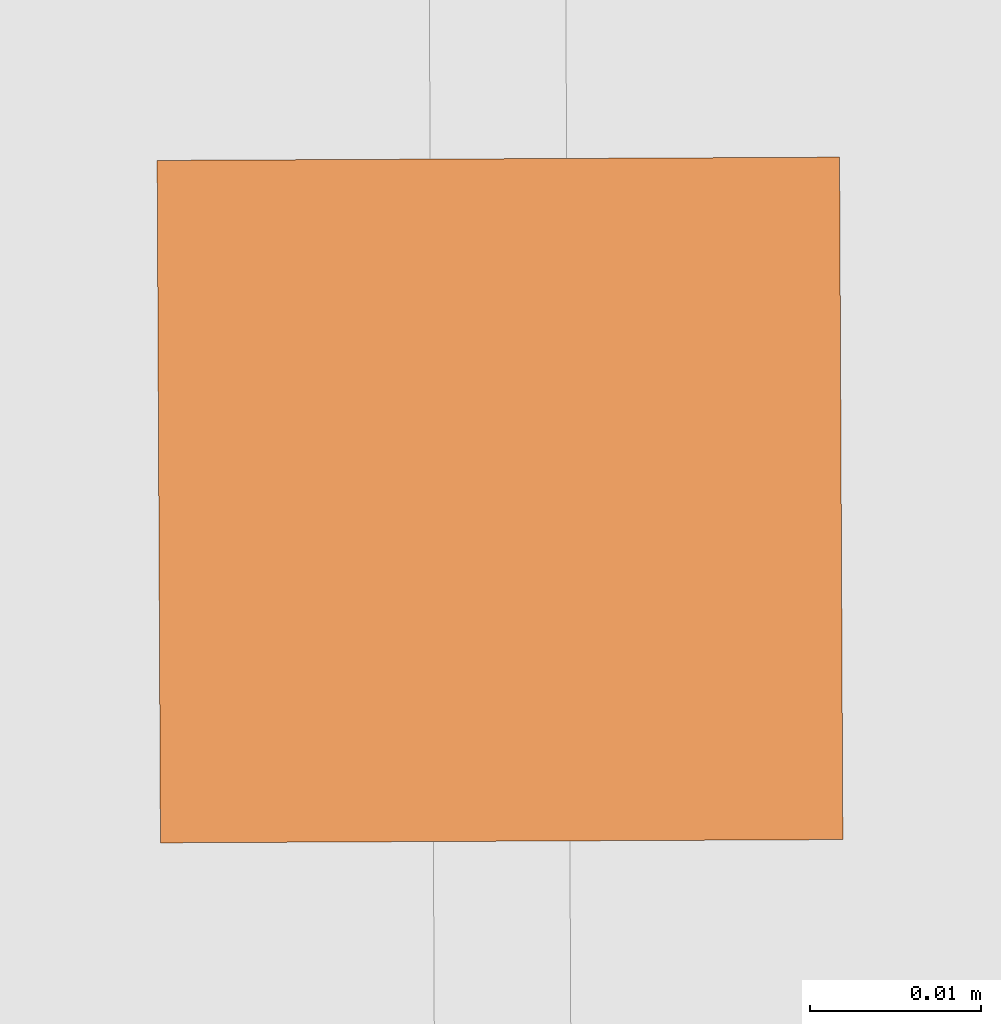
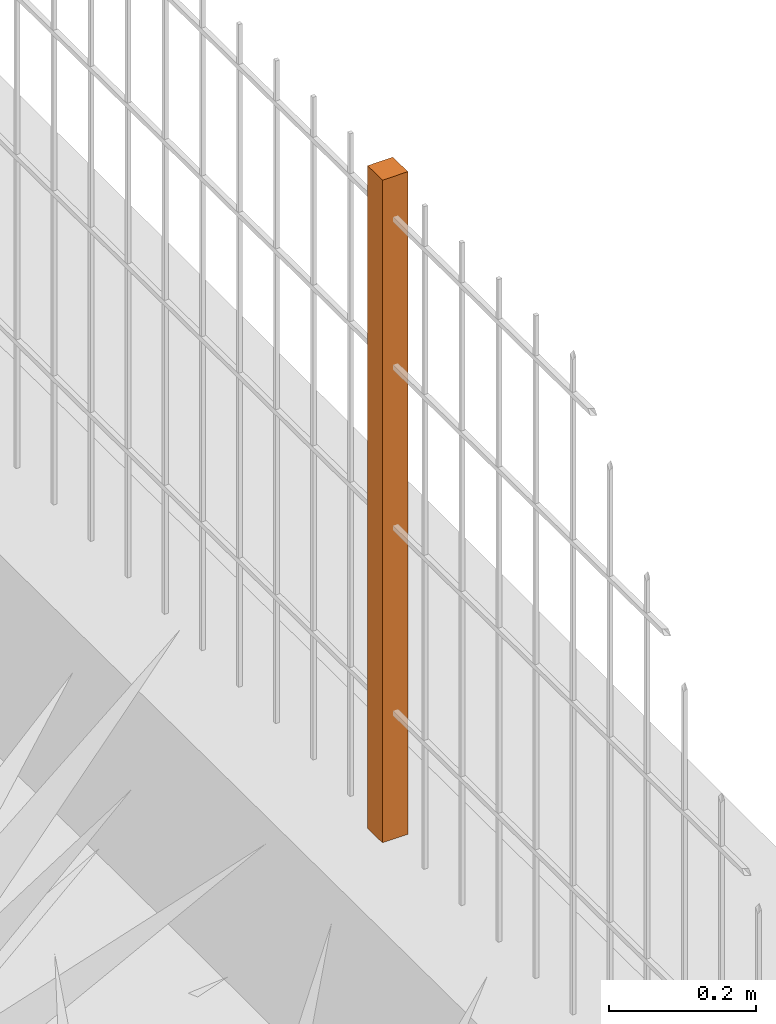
# One storey, part 30 of 1809: 1 proxy, 1 element without a shape of its own.
"""IFC2X3 building model written with IfcOpenShell, lengths in millimetres."""

import ifcopenshell
import ifcopenshell.guid

model = None  # the IFC model being written
_history = None  # IfcOwnerHistory: only IFC2X3 demands one
_inside = {}  # id of a spatial element -> (the spatial element, [elements in it])
_under = {}  # id of a project, library or spatial element -> (it, [spatial elements below it])
_declared = {}  # id of a project -> (the project, [libraries it declares])
_typed = {}  # id of a type object -> (the type object, [elements of that type])
_made_of = {}  # id of a material, layer set ... -> (it, [elements and type objects made of it])


def new_model(schema):
    """Start an empty IFC model of exactly this schema.

    Asked for "IFC4X3", IfcOpenShell would pick the latest addendum, in which some entities
    have other attributes; the version numbers below select the first issue.
    IFC2X3 requires an IfcOwnerHistory on every rooted entity: one is made here for all.
    """
    global model, _history
    if schema == "IFC4X3":
        model = ifcopenshell.file(schema_version=(4, 3, 0, 0))
    else:
        model = ifcopenshell.file(schema=schema)
    _inside.clear()
    _under.clear()
    _declared.clear()
    _typed.clear()
    _made_of.clear()
    _history = None
    if model.schema == "IFC2X3":
        org = make("IfcOrganization", Name="unknown")
        user = make(
            "IfcPersonAndOrganization",
            ThePerson=make("IfcPerson", FamilyName="unknown"),
            TheOrganization=org,
        )
        app = make(
            "IfcApplication",
            ApplicationDeveloper=org,
            Version="unknown",
            ApplicationFullName="unknown",
            ApplicationIdentifier="unknown",
        )
        _history = make(
            "IfcOwnerHistory",
            OwningUser=user,
            OwningApplication=app,
            ChangeAction="ADDED",
            CreationDate=0,
        )
    return model


def make(cls, **values):
    """One entity of the class cls with the attributes given. An attribute that is None is left unset."""
    return model.create_entity(
        cls, **{name: value for name, value in values.items() if value is not None}
    )


def entity(cls, *values):
    """Any entity or typed value of the class cls, its attributes in the order of the schema. None: left unset."""
    e = model.create_entity(cls)
    for i, value in enumerate(values):
        if value is not None:
            e[i] = value
    return e


def rooted(cls, **values):
    """An entity with a GlobalId (a new one), such as an element, a storey or a relation."""
    return make(cls, GlobalId=ifcopenshell.guid.new(), OwnerHistory=_history, **values)


def si_unit(unit_type, name, prefix=None):
    """IfcSIUnit, for example si_unit("LENGTHUNIT", "METRE", prefix="MILLI")."""
    return make("IfcSIUnit", UnitType=unit_type, Prefix=prefix, Name=name)


def converted_unit(unit_type, name, factor, base, dimensions=None, offset=None):
    """IfcConversionBasedUnit, such as the inch: factor (a typed value) times the base unit."""
    return make(
        "IfcConversionBasedUnit"
        if offset is None
        else "IfcConversionBasedUnitWithOffset",
        ConversionOffset=offset,
        Dimensions=None
        if dimensions is None
        else entity("IfcDimensionalExponents", *dimensions),
        UnitType=unit_type,
        Name=name,
        ConversionFactor=make(
            "IfcMeasureWithUnit", ValueComponent=factor, UnitComponent=base
        ),
    )


def derived_unit(unit_type, elements):
    """IfcDerivedUnit: a product of units, each with its exponent."""
    return make(
        "IfcDerivedUnit",
        Elements=[
            make("IfcDerivedUnitElement", Unit=unit, Exponent=power)
            for unit, power in elements
        ],
        UnitType=unit_type,
    )


def money_unit(currency):
    """IfcMonetaryUnit."""
    return make("IfcMonetaryUnit", Currency=currency)


def assignment(units):
    """IfcUnitAssignment: the units of a project."""
    return None if units is None else make("IfcUnitAssignment", Units=units)


def point(xyz):
    """IfcCartesianPoint."""
    return None if xyz is None else make("IfcCartesianPoint", Coordinates=xyz)


def direction(xyz):
    """IfcDirection."""
    return None if xyz is None else make("IfcDirection", DirectionRatios=xyz)


def frame(location, z_axis=None, x_axis=None):
    """IfcAxis2Placement3D, a coordinate frame: its origin and axes. An axis left out is left unset."""
    return make(
        "IfcAxis2Placement3D",
        Location=point(location),
        Axis=direction(z_axis),
        RefDirection=direction(x_axis),
    )


def origin_with_axes():
    """The frame at (0, 0, 0) with the z axis (0, 0, 1) and the x axis (1, 0, 0) written out."""
    return frame((0.0, 0.0, 0.0), z_axis=(0.0, 0.0, 1.0), x_axis=(1.0, 0.0, 0.0))


def place(relative_to, where):
    """IfcLocalPlacement: puts the frame where relative to a parent placement (None: the world)."""
    return make(
        "IfcLocalPlacement", PlacementRelTo=relative_to, RelativePlacement=where
    )


def context(
    kind, dimensions, precision=None, world=None, true_north=None, identifier=None
):
    """IfcGeometricRepresentationContext, for example the 3D "Model" context."""
    return make(
        "IfcGeometricRepresentationContext",
        ContextIdentifier=identifier,
        ContextType=kind,
        CoordinateSpaceDimension=dimensions,
        Precision=precision,
        WorldCoordinateSystem=world,
        TrueNorth=true_north,
    )


def subcontext(parent, identifier, kind, view, scale=None):
    """IfcGeometricRepresentationSubContext, for example "Body" below "Model"."""
    return make(
        "IfcGeometricRepresentationSubContext",
        ContextIdentifier=identifier,
        ContextType=kind,
        ParentContext=parent,
        TargetScale=scale,
        TargetView=view,
    )


def project(units=None, contexts=None):
    """IfcProject with its units and contexts."""
    return rooted(
        "IfcProject",
        Name="project",
        RepresentationContexts=contexts,
        UnitsInContext=assignment(units),
    )


def spatial(cls, under=None, at=None, **own):
    """A site, building, storey or space (cls), placed at a placement, below another one or the project."""
    s = rooted(cls, ObjectPlacement=at, **own)
    if under is not None:
        _under.setdefault(under.id(), (under, []))[1].append(s)
    return s


def faces_of(points, faces, orient=None, outer=None):
    """IfcFace entities. A face is a list of loops; a loop is a list of indices into points, from 0.

    orient and outer hold one flag for each loop. By default every Orientation is true, the
    first loop of a face is its IfcFaceOuterBound and the others are IfcFaceBound.
    """
    made = []
    for i, loops in enumerate(faces):
        bounds = []
        for j, loop in enumerate(loops):
            is_outer = j == 0 if outer is None else outer[i][j]
            bounds.append(
                make(
                    "IfcFaceOuterBound" if is_outer else "IfcFaceBound",
                    Bound=make("IfcPolyLoop", Polygon=[points[k] for k in loop]),
                    Orientation=True if orient is None else orient[i][j],
                )
            )
        made.append(make("IfcFace", Bounds=bounds))
    return made


def faceted_brep(points, faces, orient=None, outer=None, voids=None):
    """IfcFacetedBrep: a solid bounded by flat faces; with voids (closed shells), ...WithVoids."""
    shared = [point(p) for p in points]
    hull = make("IfcClosedShell", CfsFaces=faces_of(shared, faces, orient, outer))
    if voids is None:
        return make("IfcFacetedBrep", Outer=hull)
    return make(
        "IfcFacetedBrepWithVoids",
        Outer=hull,
        Voids=[
            make(cls, CfsFaces=faces_of(shared, fs, o, b)) for cls, fs, o, b in voids
        ],
    )


def shape(context_of_items, identifier, shape_type, items):
    """IfcShapeRepresentation: the items that make up one representation, for example the "Body"."""
    return make(
        "IfcShapeRepresentation",
        ContextOfItems=context_of_items,
        RepresentationIdentifier=identifier,
        RepresentationType=shape_type,
        Items=items,
    )


def source(mapping_origin, context_of_items, identifier, shape_type, items):
    """IfcRepresentationMap: a shape defined once, which mapped items show again and again."""
    return make(
        "IfcRepresentationMap",
        MappingOrigin=mapping_origin,
        MappedRepresentation=shape(context_of_items, identifier, shape_type, items),
    )


def transform(
    local_origin,
    x_axis=None,
    y_axis=None,
    z_axis=None,
    scale=None,
    scale2=None,
    scale3=None,
    uniform=True,
):
    """IfcCartesianTransformationOperator3D, or its non-uniform kind. x_axis, y_axis, z_axis: its Axis1, 2, 3."""
    if uniform:
        return make(
            "IfcCartesianTransformationOperator3D",
            Axis1=direction(x_axis),
            Axis2=direction(y_axis),
            LocalOrigin=point(local_origin),
            Scale=scale,
            Axis3=direction(z_axis),
        )
    return make(
        "IfcCartesianTransformationOperator3DnonUniform",
        Axis1=direction(x_axis),
        Axis2=direction(y_axis),
        LocalOrigin=point(local_origin),
        Scale=scale,
        Axis3=direction(z_axis),
        Scale2=scale2,
        Scale3=scale3,
    )


def mapped(mapping_source, mapping_target):
    """IfcMappedItem: shows the shape of a source again, moved by a transform."""
    return make(
        "IfcMappedItem", MappingSource=mapping_source, MappingTarget=mapping_target
    )


def material(Name=None, Category=None):
    """IfcMaterial."""
    return make("IfcMaterial", Name=Name, Category=Category)


def made_of(thing, what):
    """Note that an element or type object is made of a material, layer set ...; save() writes the relation."""
    if what is not None:
        _made_of.setdefault(what.id(), (what, []))[1].append(thing)
    return thing


def type_object(cls, material=None, **own):
    """A type object (cls), such as IfcWallType, which elements share."""
    return made_of(rooted(cls, **own), material)


def element(
    cls,
    number,
    at=None,
    inside=None,
    cuts=None,
    type_object=None,
    material=None,
    context=None,
    identifier="Body",
    shape_type=None,
    held_by="IfcProductDefinitionShape",
    body=None,
    shapes=None,
    **own,
):
    """One element of the class cls, such as IfcWall. Its Tag is "e" and its number.

    at: its placement. inside: the storey or other place that contains it. cuts: it is an
    opening in that element (IfcRelVoidsElement). A single representation is given by context,
    identifier, shape_type and body (its items); several are given by shapes. held_by: the class
    of the entity that holds the representations. save() writes the other relations.
    """
    e = rooted(cls, Tag="e%d" % number, ObjectPlacement=at, **own)
    if body is not None:
        shapes = [shape(context, identifier, shape_type, body)]
    if shapes is not None:
        e.Representation = make(held_by, Representations=shapes)
    if inside is not None:
        _inside.setdefault(inside.id(), (inside, []))[1].append(e)
    if cuts is not None:
        rooted(
            "IfcRelVoidsElement", RelatingBuildingElement=cuts, RelatedOpeningElement=e
        )
    if type_object is not None:
        _typed.setdefault(type_object.id(), (type_object, []))[1].append(e)
    return made_of(e, material)


def aggregate(whole, parts):
    """IfcRelAggregates: a whole, such as a stair, and the parts it consists of."""
    return rooted("IfcRelAggregates", RelatingObject=whole, RelatedObjects=parts)


def save(model, path):
    """Write the relations noted so far, then the file.

    IfcRelAggregates (storeys below a building ...), IfcRelContainedInSpatialStructure (elements
    in a storey), IfcRelDefinesByType, IfcRelAssociatesMaterial and IfcRelDeclares: one each for
    every whole, place, type object, material and project.
    """
    for whole, parts in _under.values():
        aggregate(whole, parts)
    for where, things in _inside.values():
        rooted(
            "IfcRelContainedInSpatialStructure",
            RelatedElements=things,
            RelatingStructure=where,
        )
    for kind, things in _typed.values():
        rooted("IfcRelDefinesByType", RelatedObjects=things, RelatingType=kind)
    for what, things in _made_of.values():
        rooted("IfcRelAssociatesMaterial", RelatedObjects=things, RelatingMaterial=what)
    for by, libraries in _declared.values():
        rooted("IfcRelDeclares", RelatingContext=by, RelatedDefinitions=libraries)
    model.write(path)


model = new_model("IFC2X3")

# Units and contexts
model_context = context("Model", 3, precision=0.01, world=origin_with_axes(), true_north=direction((0.0, 1.0)))
body_context = subcontext(model_context, "Body", "Model", "MODEL_VIEW")
ifc_project = project(units=[si_unit("LENGTHUNIT", "METRE", prefix="MILLI"), si_unit("AREAUNIT", "SQUARE_METRE"), si_unit("VOLUMEUNIT", "CUBIC_METRE"), converted_unit("PLANEANGLEUNIT", "DEGREE", entity("IfcPlaneAngleMeasure", 0.0174532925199), si_unit("PLANEANGLEUNIT", "RADIAN"), dimensions=[0, 0, 0, 0, 0, 0, 0]), si_unit("SOLIDANGLEUNIT", "STERADIAN"), money_unit("EUR"), converted_unit("TIMEUNIT", "Year", entity("IfcTimeMeasure", 31556926.0), si_unit("TIMEUNIT", "SECOND"), dimensions=[0, 0, 1, 0, 0, 0, 0]), si_unit("MASSUNIT", "GRAM", prefix="KILO"), si_unit("THERMODYNAMICTEMPERATUREUNIT", "DEGREE_CELSIUS"), si_unit("LUMINOUSINTENSITYUNIT", "LUMEN"), si_unit("ENERGYUNIT", "JOULE", prefix="MEGA"), derived_unit("THERMALCONDUCTANCEUNIT", [(si_unit("POWERUNIT", "WATT"), 1), (si_unit("LENGTHUNIT", "METRE"), -1), (si_unit("THERMODYNAMICTEMPERATUREUNIT", "KELVIN"), -1)]), derived_unit("SPECIFICHEATCAPACITYUNIT", [(si_unit("ENERGYUNIT", "JOULE"), 1), (si_unit("MASSUNIT", "GRAM", prefix="KILO"), -1), (si_unit("THERMODYNAMICTEMPERATUREUNIT", "KELVIN"), -1)]), derived_unit("MASSDENSITYUNIT", [(si_unit("MASSUNIT", "GRAM", prefix="KILO"), 1), (si_unit("VOLUMEUNIT", "CUBIC_METRE"), -1)])], contexts=[model_context])

# Site, building, storey
site_placement = place(None, origin_with_axes())
site = spatial("IfcSite", under=ifc_project, at=site_placement, Name="Politse- ja Piirivalveameti ning Päästeameti ühishoone", CompositionType="ELEMENT")
building_placement = place(site_placement, origin_with_axes())
building = spatial("IfcBuilding", under=site, at=building_placement, Name="Politse- ja Piirivalveameti ning Päästeameti ühishoone", CompositionType="ELEMENT")
storey_placement = place(building_placement, origin_with_axes())
storey = spatial("IfcBuildingStorey", under=building, at=storey_placement, Name="Esimene korrus", CompositionType="ELEMENT", Elevation=0.0)

# Proxies
building_element_proxy_type_1 = type_object("IfcBuildingElementProxyType", Name="Railing Type", PredefinedType="NOTDEFINED")
proxy_1_placement = place(storey_placement, frame((88797.9754601, 13797.9382952, 177.658412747), z_axis=(0.0, 0.0, 1.0), x_axis=(1.0, 0.0, 0.0)))
proxy_1 = element("IfcBuildingElementProxy", 1, at=proxy_1_placement, inside=storey, type_object=building_element_proxy_type_1, Name="PIIRDEAED")
ifc_material = material(Name="ET-03_Raud")
building_element_proxy_type_2 = type_object("IfcBuildingElementProxyType", Name="IfcBuildingElementProxy", PredefinedType="NOTDEFINED")
shared_shape = source(origin_with_axes(), body_context, "Body", "Brep", [
    faceted_brep([(20.0, 20.0, 0.0), (-20.0, 20.0, 0.0), (-20.0, 20.0, 1100.0), (20.0, 20.0, 1100.0), (20.0, -20.0, 0.0), (-20.0, -20.0, 0.0), (-20.0, -20.0, 1100.0), (20.0, -20.0, 1100.0)], [[[0, 1, 2, 3]], [[0, 4, 5, 1]], [[1, 5, 6, 2]], [[3, 2, 6, 7]], [[4, 0, 3, 7]], [[5, 4, 7, 6]]]),
])
proxy_2_placement = place(proxy_1_placement, frame((293.581023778, 12448.2403455, 0.0), z_axis=(0.0, 0.0, 1.0), x_axis=(1.0, 0.0, 0.0)))
proxy_2 = element("IfcBuildingElementProxy", 2, at=proxy_2_placement, type_object=building_element_proxy_type_2, material=ifc_material, Name="SISEPOST - 001", context=body_context, shape_type="MappedRepresentation", body=[
    mapped(shared_shape, transform((0.0, 0.0, 0.0), x_axis=(0.999988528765, 0.00478981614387, 0.0), y_axis=(-0.00478981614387, 0.999988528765, 0.0), z_axis=(0.0, 0.0, 1.0))),
])
aggregate(proxy_1, [proxy_2])

save(model, "model.ifc")
